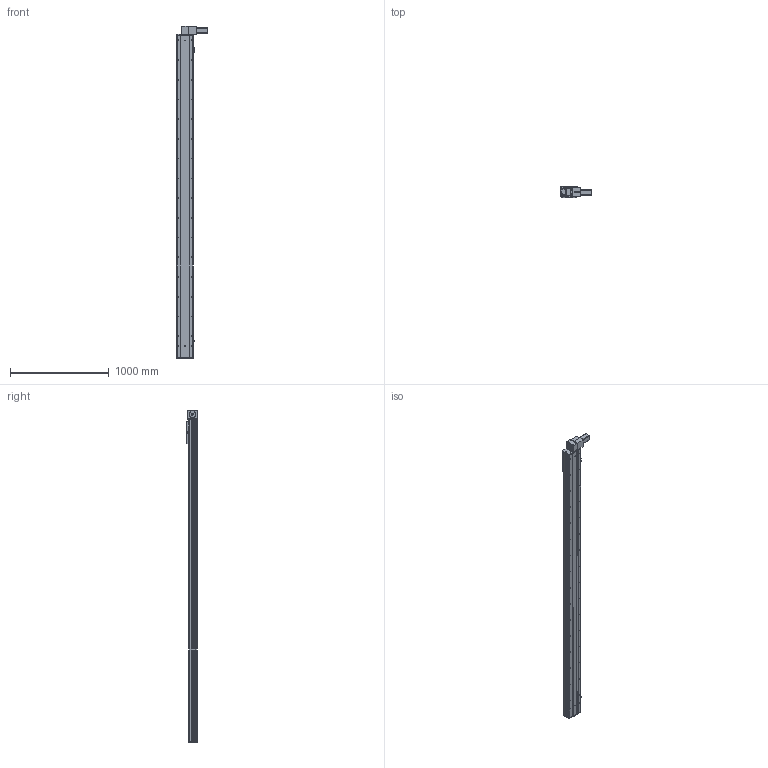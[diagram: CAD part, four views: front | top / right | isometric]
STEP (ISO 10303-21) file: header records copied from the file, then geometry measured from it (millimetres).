
FILE_DESCRIPTION (( 'STEP AP203' ), '1' );
FILE_NAME ('Y170CB-D105-S2950-BD-P400W.STEP', '2020-02-20T09:23:22', ( '微软用户' ), ( '微软中国' ), 'SwSTEP 2.0', 'SolidWorks 2017', '' );
FILE_SCHEMA (( 'CONFIG_CONTROL_DESIGN' ));
Length unit declared in the file: millimetre
Products named in the file (16): B-源倛裔啣; Y100-135俋离換覜ん--; san松下电机400不带刹车----; Y170CB-陔俋离換覜結え---; --70CB --喘謫眊楊擘啣-; 70CB-掛极-; Y1埴倛裔; 70CB-耜裔啣-; 70B喘謫眊----; 70C--詩湍揤踡え-; 0B薊粣ん眊-400W--; 70CB--耜裔; Y170CB-D105-S2950-BD-P400W; 70C-雄赽釱-奻-; 0C--雄赽釱俋欶-170; 70CB-詩湍--
Assembly tree (19 placements, depth 2):
  Y170CB-D105-S2950-BD-P400W
    B-源倛裔啣
    san松下电机400不带刹车----
    70CB-掛极-
    --70CB --喘謫眊楊擘啣-
    70CB-耜裔啣-  x2
    70C--詩湍揤踡え-  x2
    70CB--耜裔
    70C-雄赽釱-奻-
    0C--雄赽釱俋欶-170
    70CB-詩湍--
    Y100-135俋离換覜ん--  x3
    Y170CB-陔俋离換覜結え---
    Y1埴倛裔
    70B喘謫眊----
    0B薊粣ん眊-400W--
Bounding box: 313.5 x 107 x 3366 mm (x, y, z)
Volume: 14504367.1 mm3; surface area: 5111521.3 mm2
Topology: 19 solids, 19 shells, 1000 faces, 2666 edges, 1768 vertices
Faces by surface type: cylinder 554, plane 422, cone 24
Entity records: 31639 total; most frequent: CARTESIAN_POINT 5926, DIRECTION 5151, ORIENTED_EDGE 4814, EDGE_CURVE 2407, AXIS2_PLACEMENT_3D 1921, VERTEX_POINT 1598, VECTOR 1309, LINE 1309
